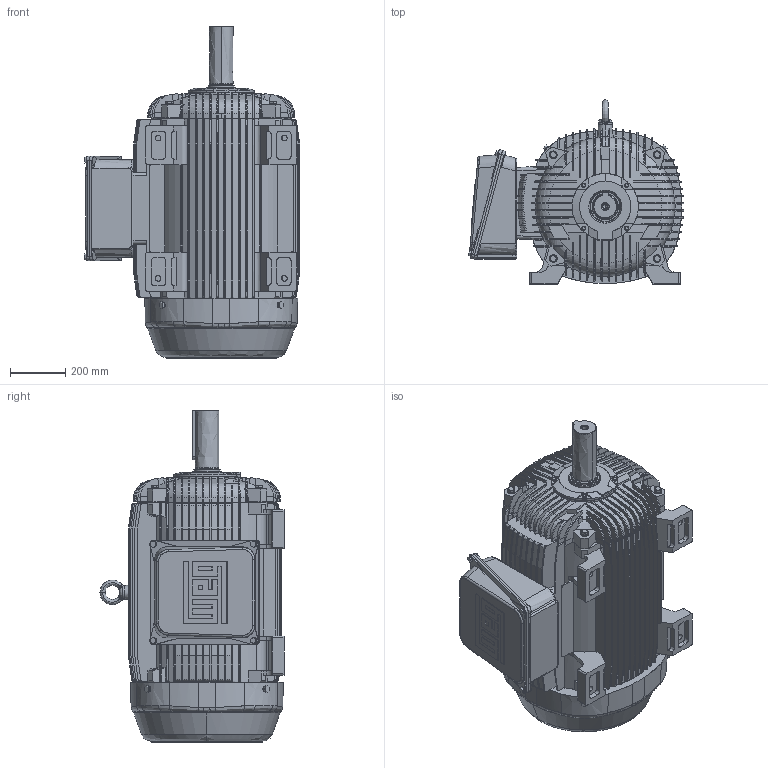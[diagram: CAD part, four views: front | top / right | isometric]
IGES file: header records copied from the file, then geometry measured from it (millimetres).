
Start section: SolidWorks IGES file using analytic representation for surfaces
Global section: file name: Y:\NEMA\W21\24_FRAME_447T\STANDARD\IGS\447T_LEFT.IGS; native system: SolidWorks 2006 by SolidWorks Corporation; preprocessor: SolidWorks 2006 by SolidWorks Corporation; author: ricardov; date: 060809.121310; units: millimetre
Bounding box: 781.35 x 666.89 x 1202.9 mm (x, y, z)
Surface area: 5087287.7 mm2 (no closed solid volume)
Topology: 0 solids, 0 shells, 2700 faces, 31401 edges, 31366 vertices
Faces by surface type: bspline 1713, revolution 987
